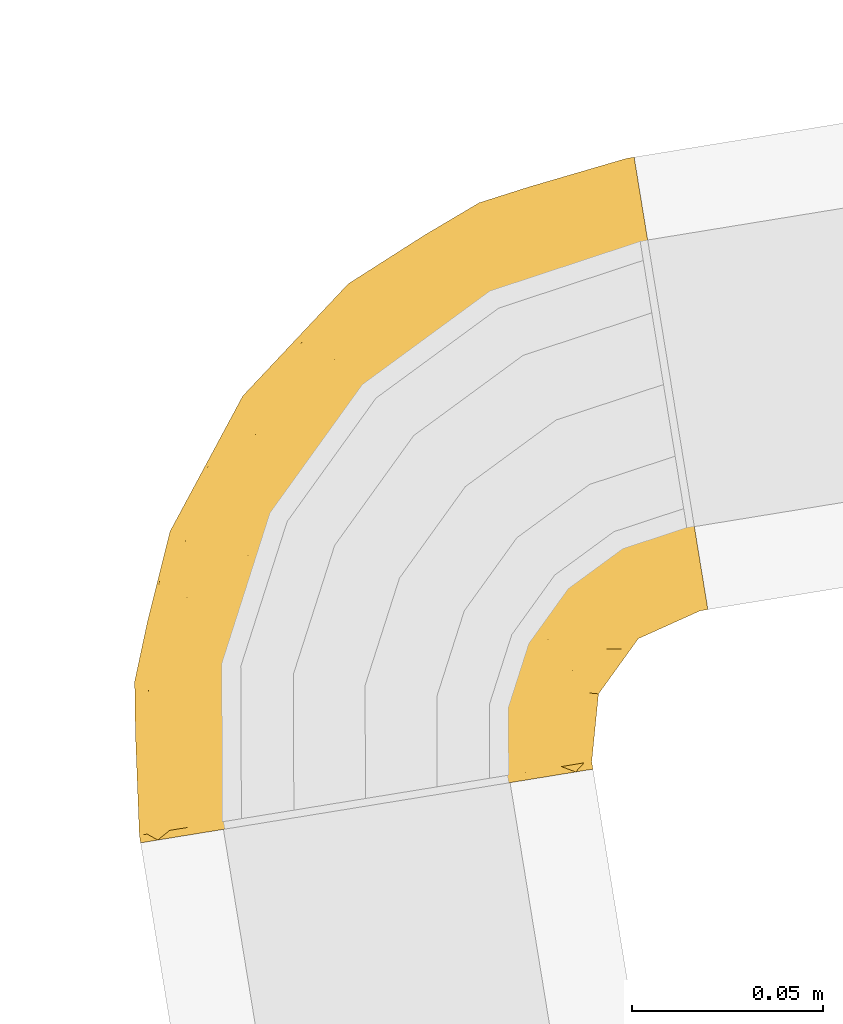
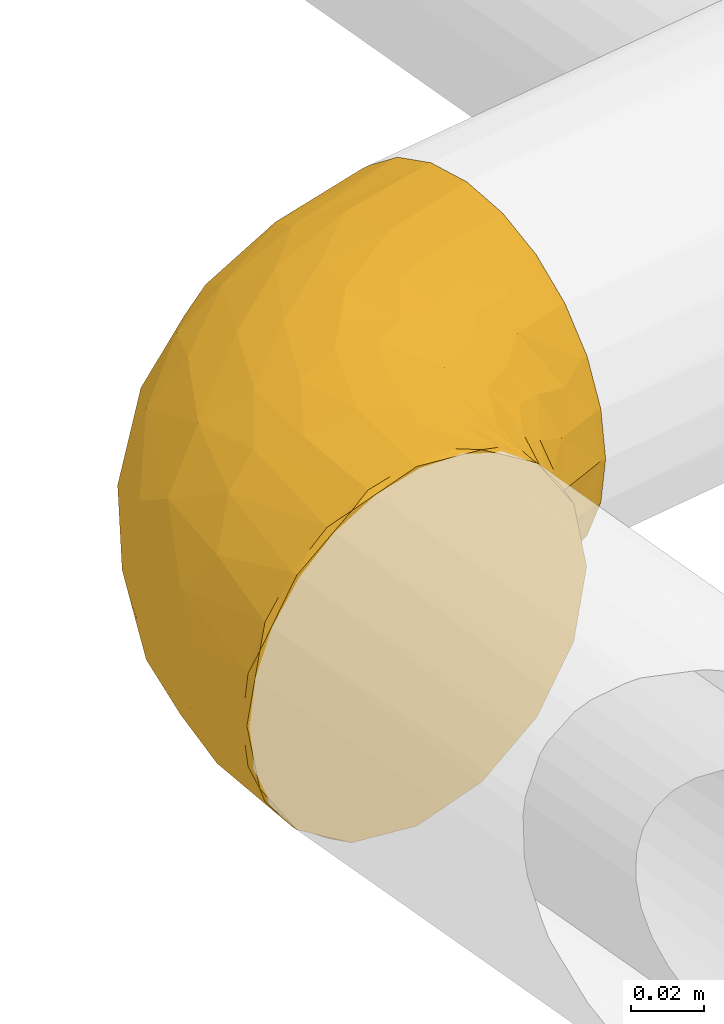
# One storey, part 12 of 46: 1 covering.
"""IFC2X3 building model written with IfcOpenShell, lengths in millimetres."""

from ifc_helpers import new_model, entity, si_unit, converted_unit, derived_unit, direction, frame, origin, origin_with_axes, place, context, subcontext, project, spatial, faceted_brep, material, type_object, element, save


model = new_model("IFC2X3")

# Units and contexts
model_context = context("Model", 3, precision=0.01, world=origin(), true_north=direction((6.12323399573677e-17, 1.0)))
plan_context = context("Plan", 3, precision=1e-05, world=origin_with_axes())
body_context = subcontext(model_context, "Body", "Model", "MODEL_VIEW")
ifc_project = project(units=[converted_unit("PLANEANGLEUNIT", "DEGREE", entity("IfcPositiveLengthMeasure", 0.0174532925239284), si_unit("PLANEANGLEUNIT", "RADIAN"), dimensions=[0, 0, 0, 0, 0, 0, 0]), si_unit("AREAUNIT", "SQUARE_METRE"), si_unit("LENGTHUNIT", "METRE", prefix="MILLI"), si_unit("MASSUNIT", "GRAM", prefix="KILO"), si_unit("POWERUNIT", "WATT"), si_unit("PRESSUREUNIT", "PASCAL", prefix="KILO"), si_unit("FORCEUNIT", "NEWTON", prefix="KILO"), si_unit("ELECTRICVOLTAGEUNIT", "VOLT"), si_unit("ELECTRICCURRENTUNIT", "AMPERE"), si_unit("THERMODYNAMICTEMPERATUREUNIT", "DEGREE_CELSIUS"), si_unit("TIMEUNIT", "SECOND"), si_unit("VOLUMEUNIT", "CUBIC_METRE"), derived_unit("LINEARVELOCITYUNIT", [(si_unit("LENGTHUNIT", "METRE"), 1), (si_unit("TIMEUNIT", "SECOND"), -1)]), derived_unit("VOLUMETRICFLOWRATEUNIT", [(si_unit("VOLUMEUNIT", "CUBIC_METRE"), 1), (si_unit("TIMEUNIT", "SECOND"), -1)]), derived_unit("THERMALTRANSMITTANCEUNIT", [(si_unit("POWERUNIT", "WATT"), 1), (si_unit("THERMODYNAMICTEMPERATUREUNIT", "KELVIN"), -1), (si_unit("AREAUNIT", "SQUARE_METRE"), -1)]), derived_unit("SOUNDPRESSUREUNIT", [(si_unit("PRESSUREUNIT", "PASCAL"), 1)])], contexts=[model_context, plan_context])

# Site, building, storey
site_placement = place(None, frame((-3.09682673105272e-06, 1.93776733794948e-05, 0.0), z_axis=(0.0, 0.0, 1.0), x_axis=(-0.160806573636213, 0.986985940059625, 0.0)))
site = spatial("IfcSite", under=ifc_project, at=site_placement, Name="Default", CompositionType="ELEMENT")
building_placement = place(site_placement, frame((0.0, 0.0, 0.0), z_axis=(0.0, 0.0, 1.0), x_axis=(1.0, -2.77555756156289e-17, 0.0)))
building = spatial("IfcBuilding", under=site, at=building_placement, Name="Bygning (endres i Project Information)", CompositionType="ELEMENT")
storey_placement = place(building_placement, frame((0.0, 0.0, 51360.0000000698), z_axis=(0.0, 0.0, 1.0), x_axis=(1.0, -2.77555756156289e-17, 0.0)))
storey = spatial("IfcBuildingStorey", under=building, at=storey_placement, Name="H01-Nivå D+0,36", CompositionType="ELEMENT", Elevation=51360.0000000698)

# Covering
ifc_material = material(Name="3700.001 Tur")
covering_type = type_object("IfcCoveringType", Name="Pipe Insulation:GLAVA avløpsisol. slange økende 19mm (15,5-25,0)", PredefinedType="INSULATION")
covering_placement = place(storey_placement, frame((999866.867642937, -346843.899155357, 3378.35472776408), z_axis=(0.0, 0.0, 1.0), x_axis=(1.0, -2.77555756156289e-17, 0.0)))
element("IfcCovering", 1, at=covering_placement, inside=storey, type_object=covering_type, material=ifc_material, Name="Pipe Insulation:GLAVA avløpsisol. slange økende 19mm (15,5-25,0)", ObjectType="Pipe Insulation:GLAVA avløpsisol. slange økende 19mm (15,5-25,0)", PredefinedType="INSULATION", context=body_context, shape_type="Brep", body=[
    faceted_brep([(0.0, 129.220951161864, 110.615636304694), (0.0, 138.961762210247, 104.107034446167), (0.0, 145.470364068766, 94.3662233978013), (0.0, 151.978965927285, 84.6254123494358), (0.0, 154.264482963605, 73.1353422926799), (0.0, 156.549999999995, 61.6452722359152), (0.0, 154.264482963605, 50.1552021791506), (0.0, 151.978965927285, 38.6651321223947), (0.0, 145.470364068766, 28.9243210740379), (0.0, 138.961762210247, 19.1835100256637), (0.0, 129.220951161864, 12.6749081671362), (0.0, 119.480140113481, 6.16630630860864), (0.0, 107.990070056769, 3.88078927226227), (0.0, 96.4999999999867, 1.5952722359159), (0.0, 85.0099299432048, 3.88078927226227), (0.0, 73.5198598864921, 6.16630630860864), (0.0, 63.7790488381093, 12.6749081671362), (0.0, 54.0382377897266, 19.1835100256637), (0.0, 47.5296359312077, 28.9243210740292), (0.0, 41.0210340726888, 38.6651321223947), (0.0, 38.7355170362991, 50.1552021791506), (0.0, 36.4499999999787, 61.6452722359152), (0.0, 38.7355170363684, 73.1353422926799), (0.0, 41.0210340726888, 84.6254123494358), (0.0, 47.5296359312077, 94.3662233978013), (0.0, 54.0382377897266, 104.107034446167), (0.0, 63.7790488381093, 110.615636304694), (0.0, 73.5198598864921, 117.124238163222), (0.0, 85.0099299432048, 119.409755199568), (0.0, 96.4999999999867, 121.695272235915), (0.0, 107.990070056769, 119.409755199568), (0.0, 119.480140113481, 117.124238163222), (154.503845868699, 0.0, 46.1031885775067), (155.449472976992, 0.0, 53.2859395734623), (156.550000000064, 0.0, 61.6452722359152), (155.526922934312, 0.0, 69.4163140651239), (154.503845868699, 0.0, 77.1873558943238), (151.504335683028, 0.0, 84.4288140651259), (148.504825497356, 0.0, 91.6702722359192), (143.733293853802, 0.0, 97.8886533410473), (138.961762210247, 0.0, 104.107034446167), (132.743381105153, 0.0, 108.87856608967), (126.52500000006, 0.0, 113.650097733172), (119.283541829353, 0.0, 116.649607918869), (112.042083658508, 0.0, 119.649118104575), (104.859332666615, 0.0, 120.59474521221), (96.500000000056, 0.0, 121.695272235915), (88.7289581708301, 0.0, 120.672195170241), (80.9579163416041, 0.0, 119.649118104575), (73.7164581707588, 0.0, 116.649607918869), (66.475000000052, 0.0, 113.650097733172), (60.2566188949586, 0.0, 108.87856608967), (54.0382377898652, 0.0, 104.107034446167), (49.2667061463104, 0.0, 97.8886533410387), (44.4951745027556, 0.0, 91.6702722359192), (41.4956643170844, 0.0, 84.4288140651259), (38.4961541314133, 0.0, 77.1873558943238), (37.5505270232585, 0.0, 70.0046048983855), (36.450000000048, 0.0, 61.6452722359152), (37.4730770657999, 0.0, 53.8742304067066), (38.4961541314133, 0.0, 46.1031885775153), (41.4956643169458, 0.0, 38.8617304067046), (44.4951745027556, 0.0, 31.6202722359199), (49.2667061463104, 0.0, 25.4018911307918), (54.0382377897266, 0.0, 19.1835100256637), (60.2566188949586, 0.0, 14.4119783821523), (66.475000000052, 0.0, 9.64044673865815), (73.7164581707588, 0.0, 6.64093655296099), (80.9579163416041, 0.0, 3.64142636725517), (88.1406673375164, 0.0, 2.6957992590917), (96.500000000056, 0.0, 1.5952722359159), (104.271041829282, 0.0, 2.61834930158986), (112.042083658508, 0.0, 3.64142636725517), (119.283541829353, 0.0, 6.64093655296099), (126.52500000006, 0.0, 9.64044673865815), (132.743381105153, 0.0, 14.4119783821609), (138.961762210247, 0.0, 19.1835100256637), (143.733293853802, 0.0, 25.4018911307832), (148.504825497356, 0.0, 31.6202722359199), (151.504335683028, 0.0, 38.8617304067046), (154.503845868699, 2.0, 77.1873558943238), (156.550000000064, 2.0, 61.6452722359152), (155.449472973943, 2.0, 70.0046049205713), (148.504825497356, 2.0, 91.6702722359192), (151.504335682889, 2.0, 84.4288140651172), (143.733293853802, 2.0, 97.8886533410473), (138.961762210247, 2.0, 104.107034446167), (126.52500000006, 2.0, 113.650097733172), (132.743381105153, 2.0, 108.87856608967), (112.042083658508, 2.0, 119.649118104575), (119.283541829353, 2.0, 116.649607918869), (104.271041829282, 2.0, 120.672195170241), (96.500000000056, 2.0, 121.695272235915), (88.1406673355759, 2.0, 120.594745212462), (85.8750124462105, 2.0, 120.296466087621), (80.9579163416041, 2.0, 119.649118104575), (66.475000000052, 2.0, 113.650097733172), (73.7164581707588, 2.0, 116.649607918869), (60.2566188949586, 2.0, 108.87856608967), (54.0382377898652, 2.0, 104.107034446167), (44.4951745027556, 2.0, 91.6702722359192), (49.2667061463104, 2.0, 97.8886533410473), (38.4961541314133, 2.0, 77.1873558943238), (41.4956643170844, 2.0, 84.4288140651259), (37.4730770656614, 2.0, 69.4163140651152), (36.450000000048, 2.0, 61.6452722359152), (38.4961541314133, 2.0, 46.1031885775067), (37.5505270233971, 2.0, 53.2859395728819), (44.4951745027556, 2.0, 31.6202722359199), (41.4956643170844, 2.0, 38.8617304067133), (49.2667061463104, 2.0, 25.4018911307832), (54.0382377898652, 2.0, 19.1835100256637), (66.475000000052, 2.0, 9.64044673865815), (60.2566188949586, 2.0, 14.4119783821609), (80.9579163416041, 2.0, 3.64142636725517), (73.7164581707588, 2.0, 6.64093655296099), (85.8750124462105, 2.0, 2.99407838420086), (88.7289581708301, 2.0, 2.61834930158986), (96.500000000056, 2.0, 1.5952722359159), (112.042083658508, 2.0, 3.64142636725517), (104.859332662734, 2.0, 2.69579925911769), (126.52500000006, 2.0, 9.64044673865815), (119.283541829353, 2.0, 6.64093655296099), (132.743381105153, 2.0, 14.4119783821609), (138.961762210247, 2.0, 19.1835100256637), (148.504825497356, 2.0, 31.6202722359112), (143.733293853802, 2.0, 25.4018911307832), (154.503845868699, 2.0, 46.1031885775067), (151.504335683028, 2.0, 38.8617304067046), (155.526922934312, 2.0, 53.8742304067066), (42.0004834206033, 151.283836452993, 61.6452722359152), (28.4061816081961, 153.288940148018, 72.4161841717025), (66.8176923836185, 140.648176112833, 74.9782039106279), (151.283836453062, 42.000483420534, 61.6452722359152), (153.28894006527, 28.4061821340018, 72.4161841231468), (138.43438143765, 65.664162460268, 83.1765166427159), (134.144438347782, 61.5566816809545, 94.222417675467), (148.119588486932, 38.9846814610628, 82.7275564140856), (142.732214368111, 29.8044788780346, 96.4252457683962), (103.18456402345, 62.1059187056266, 117.036665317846), (118.904536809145, 43.2804897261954, 113.961629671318), (116.677739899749, 69.8762938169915, 107.511164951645), (100.860670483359, 109.624365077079, 92.2961559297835), (122.592591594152, 93.8575830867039, 80.2573725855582), (94.5183470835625, 123.241838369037, 77.1652546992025), (94.1873799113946, 53.2047729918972, 120.687826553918), (79.0255659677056, 79.0255650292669, 119.935582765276), (78.4521059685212, 57.5457063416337, 121.695272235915), (130.738697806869, 39.4121865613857, 106.818747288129), (116.8582589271, 85.9725505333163, 98.0183861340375), (111.283353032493, 111.283353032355, 61.6452722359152), (79.2750000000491, 135.844226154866, 61.6452722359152), (135.844226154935, 79.2749999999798, 61.6452722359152), (109.248734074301, 33.1085428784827, 119.188453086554), (62.1059203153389, 103.184562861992, 117.036665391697), (88.1401035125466, 88.1401014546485, 115.120432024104), (85.1634733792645, 44.3739061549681, 121.695272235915), (91.8748407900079, 31.2021059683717, 121.695272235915), (145.293239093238, 57.3185911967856, 72.2819566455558), (39.4121875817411, 130.738696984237, 106.81874773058), (69.8762968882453, 116.677737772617, 107.511165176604), (61.5566846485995, 134.144435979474, 94.2224191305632), (38.9846813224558, 148.119588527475, 82.7275563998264), (2.0, 154.503845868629, 77.1873558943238), (2.0, 151.504335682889, 84.4288140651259), (2.0, 148.504825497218, 91.6702722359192), (29.8044794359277, 142.732213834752, 96.425246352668), (2.0, 143.733293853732, 97.8886533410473), (2.0, 138.961762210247, 104.107034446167), (2.0, 156.549999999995, 61.6452722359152), (2.0, 155.526922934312, 69.4163140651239), (43.2804911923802, 118.904535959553, 113.961629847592), (2.0, 126.524999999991, 113.650097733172), (2.0, 119.283541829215, 116.649607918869), (2.0, 112.042083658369, 119.649118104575), (2.0, 132.743381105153, 108.87856608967), (57.545706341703, 78.4521059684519, 121.695272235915), (67.9989061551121, 67.9989061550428, 121.695272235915), (53.2047737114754, 94.1873794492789, 120.687826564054), (33.1085435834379, 109.248733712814, 119.188453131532), (31.2021059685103, 91.8748407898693, 121.695272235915), (2.0, 96.4999999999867, 121.695272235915), (14.796615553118, 94.4732152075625, 121.695272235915), (44.3739061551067, 85.1634733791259, 121.695272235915), (76.0964222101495, 132.27747936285, 84.8749327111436), (2.0, 104.271041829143, 120.672195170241), (97.6322626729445, 97.632258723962, 105.757550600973), (94.4732153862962, 14.7966144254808, 121.695272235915), (26.3881555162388, 37.6410747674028, 92.8369498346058), (19.8213005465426, 34.0749834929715, 77.9055273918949), (30.495068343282, 28.0667583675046, 83.6303098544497), (79.6755573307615, 16.0282072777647, 119.642205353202), (77.7956794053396, 29.5164396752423, 120.072900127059), (41.3921957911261, 10.6116860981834, 87.5451559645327), (51.2599985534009, 19.0628082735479, 104.200031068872), (39.3569033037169, 21.7229416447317, 91.2304823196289), (66.4255659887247, 27.3599081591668, 116.12269221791), (61.7611370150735, 39.666857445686, 116.752099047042), (57.3979050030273, 28.2283372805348, 111.67835539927), (73.6921423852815, 42.1136087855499, 120.41189913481), (59.8559552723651, 53.275038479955, 119.181509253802), (11.1054589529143, 52.727726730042, 103.601291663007), (21.0489355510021, 51.2360169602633, 104.848123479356), (18.495195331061, 59.4763453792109, 110.652106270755), (2.0, 88.7289581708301, 120.672195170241), (2.0, 85.8750125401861, 120.2964661), (2.0, 80.9579163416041, 119.649118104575), (69.7763679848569, 16.1927958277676, 116.127021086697), (60.2362581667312, 14.693483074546, 110.514916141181), (35.2954551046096, 16.4668027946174, 76.4459559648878), (35.1684660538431, 31.5509659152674, 94.7858946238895), (35.474407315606, 42.5961267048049, 104.678316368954), (13.4287309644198, 41.1395158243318, 88.4690949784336), (2.0, 44.4951745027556, 91.6702722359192), (2.0, 41.4956643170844, 84.4288140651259), (2.0, 38.496154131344, 77.1873558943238), (54.7534216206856, 65.3961824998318, 120.478795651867), (29.8078963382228, 66.6759720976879, 116.647334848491), (44.0771599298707, 71.9580007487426, 120.30145030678), (27.0781928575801, 78.5096110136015, 120.044050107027), (29.7714545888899, 57.492677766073, 112.175020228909), (16.2064688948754, 82.4821351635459, 120.320962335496), (2.0, 66.4749999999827, 113.650097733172), (16.1340663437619, 67.9157141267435, 115.239613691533), (2.0, 54.0382377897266, 104.107034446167), (48.9737177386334, 37.4968626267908, 109.988197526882), (43.94479507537, 28.5809695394, 101.585160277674), (10.6124999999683, 34.1422875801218, 61.6452722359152), (11.3511933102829, 37.5973450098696, 78.2976487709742), (40.6154890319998, 53.6128492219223, 113.641213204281), (39.3574666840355, 62.9326956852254, 117.104758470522), (2.0, 36.4499999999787, 61.6452722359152), (25.5297875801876, 25.5297875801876, 61.6452722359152), (19.2250000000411, 31.8345751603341, 61.6452722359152), (29.823229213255, 23.9458716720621, 72.4858684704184), (31.8345751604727, 19.2249999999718, 61.6452722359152), (2.0, 60.25661889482, 108.87856608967), (2.0, 49.2667061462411, 97.8886533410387), (2.0, 73.7164581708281, 116.649607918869), (2.0, 37.4730770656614, 69.4163140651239), (51.2599985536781, 19.0628082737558, 19.0905134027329), (41.3921957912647, 10.6116860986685, 35.7453885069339), (35.2954551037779, 16.4668027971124, 46.8445885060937), (79.6755573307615, 16.028207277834, 3.64833911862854), (94.4732153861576, 14.7966144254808, 1.5952722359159), (57.545706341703, 78.4521059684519, 1.5952722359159), (54.7534299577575, 65.3961907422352, 2.81174643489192), (44.0771578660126, 71.9580001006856, 2.98909452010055), (19.8213005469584, 34.0749834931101, 45.3850170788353), (26.3881555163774, 37.6410747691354, 30.4535946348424), (30.495068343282, 28.0667583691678, 39.6602346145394), (60.6680970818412, 14.4208560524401, 12.5170794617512), (70.3948101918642, 16.8876246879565, 6.8221522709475), (66.4255659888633, 27.3599081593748, 7.16785225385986), (73.6921423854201, 42.1136087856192, 2.87864533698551), (78.4327232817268, 30.0434207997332, 3.03824146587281), (91.8748407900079, 31.2021059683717, 1.5952722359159), (43.9447950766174, 28.5809695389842, 21.7053841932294), (35.4744037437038, 42.596120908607, 18.6122346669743), (48.9737177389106, 37.4968626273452, 13.3023469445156), (35.1684660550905, 31.5509659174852, 28.5046498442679), (39.3569033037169, 21.7229416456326, 32.0600621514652), (26.140148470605, 28.092672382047, 50.2206672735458), (67.9989061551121, 67.9989061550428, 1.5952722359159), (59.8559490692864, 53.2750496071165, 4.10903439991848), (11.3511933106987, 37.5973450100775, 44.9928956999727), (14.7966155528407, 94.4732152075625, 1.59527223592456), (2.0, 80.9579163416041, 3.64142636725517), (2.0, 85.8750125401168, 2.99407837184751), (2.0, 88.7289581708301, 2.61834930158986), (2.0, 96.4999999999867, 1.5952722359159), (40.6154761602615, 53.6128377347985, 9.64934103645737), (18.4951987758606, 59.4763438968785, 12.638438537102), (2.0, 54.0382377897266, 19.1835100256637), (16.134063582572, 67.9157049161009, 8.05093562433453), (2.0, 60.25661889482, 14.4119783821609), (2.0, 66.4749999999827, 9.64044673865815), (27.0781868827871, 78.5096049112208, 3.2464961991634), (29.8078959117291, 66.6759627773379, 6.64321344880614), (21.0489258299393, 51.2360176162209, 18.4424237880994), (29.7714523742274, 57.4926701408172, 11.1155292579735), (61.7611302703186, 39.66686114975, 6.53844704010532), (31.2021059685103, 91.8748407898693, 1.5952722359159), (16.2064688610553, 82.482134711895, 2.96958223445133), (44.3739061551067, 85.1634733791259, 1.5952722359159), (11.1054582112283, 52.7277319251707, 19.6892477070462), (13.428730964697, 41.1395158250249, 34.8214494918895), (2.0, 38.496154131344, 46.1031885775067), (2.0, 41.4956643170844, 38.8617304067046), (2.0, 44.4951745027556, 31.6202722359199), (57.3979048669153, 28.2283378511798, 11.6121889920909), (78.4521059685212, 57.5457063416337, 1.5952722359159), (2.0, 37.4730770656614, 53.8742304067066), (39.3574747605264, 62.9326857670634, 6.18578775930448), (2.0, 73.7164581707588, 6.64093655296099), (2.0, 49.2667061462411, 25.4018911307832), (85.1634733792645, 44.3739061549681, 1.5952722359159), (94.1873799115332, 53.2047729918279, 2.60271791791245), (61.5566846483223, 134.144435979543, 29.0681253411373), (85.9725557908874, 116.858254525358, 25.2721577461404), (69.8762968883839, 116.67773777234, 15.7793792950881), (38.9846813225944, 148.119588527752, 40.5629880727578), (2.0, 148.504825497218, 31.6202722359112), (2.0, 151.504335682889, 38.8617304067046), (2.0, 154.503845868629, 46.1031885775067), (109.624370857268, 100.86066465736, 30.9943890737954), (93.8575895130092, 122.59258682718, 43.0331721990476), (123.241842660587, 94.5183416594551, 46.1252902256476), (53.2047737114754, 94.1873794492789, 2.60271790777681), (79.0255659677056, 79.0255650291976, 3.35496170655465), (109.248734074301, 33.1085428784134, 4.10209138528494), (153.28894006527, 28.4061821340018, 50.874360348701), (148.119588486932, 38.9846814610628, 40.5629880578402), (142.73221436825, 29.8044788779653, 26.8652987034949), (130.738697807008, 39.4121865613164, 16.4717971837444), (134.144438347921, 61.5566816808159, 29.0681267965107), (140.648176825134, 66.8176902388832, 48.3123394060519), (118.904536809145, 43.2804897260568, 9.32891480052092), (116.677739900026, 69.8762938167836, 15.7793795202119), (2.0, 126.524999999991, 9.64044673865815), (39.4121875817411, 130.738696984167, 16.4717967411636), (43.2804911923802, 118.904535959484, 9.32891462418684), (33.1085435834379, 109.248733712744, 4.10209134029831), (62.1059203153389, 103.184562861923, 6.25387908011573), (2.0, 104.271041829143, 2.61834930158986), (2.0, 112.042083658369, 3.64142636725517), (103.18456402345, 62.105918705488, 6.25387915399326), (88.1401035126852, 88.1401014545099, 8.17011244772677), (28.4061816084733, 153.288940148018, 50.8743603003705), (2.0, 138.961762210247, 19.1835100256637), (29.8044794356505, 142.73221383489, 26.8652981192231), (57.3185899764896, 145.29323981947, 51.0085891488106), (2.0, 143.733293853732, 25.4018911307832), (2.0, 132.743381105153, 14.4119783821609), (65.6641633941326, 138.434380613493, 40.1140269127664), (132.277483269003, 76.0964168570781, 38.4156135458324), (97.6322626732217, 97.6322587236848, 17.5329938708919), (2.0, 119.283541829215, 6.64093655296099), (2.0, 155.526922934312, 53.8742304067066)], [[[0, 1, 2, 3, 4, 5, 6, 7, 8, 9, 10, 11, 12, 13, 14, 15, 16, 17, 18, 19, 20, 21, 22, 23, 24, 25, 26, 27, 28, 29, 30, 31]], [[32, 33, 34, 35, 36, 37, 38, 39, 40, 41, 42, 43, 44, 45, 46, 47, 48, 49, 50, 51, 52, 53, 54, 55, 56, 57, 58, 59, 60, 61, 62, 63, 64, 65, 66, 67, 68, 69, 70, 71, 72, 73, 74, 75, 76, 77, 78, 79]], [[80, 36, 35, 34, 81, 82]], [[83, 38, 37, 36, 80, 84]], [[39, 38, 83, 85, 86, 40]], [[87, 42, 41, 40, 86, 88]], [[89, 44, 43, 42, 87, 90]], [[45, 44, 89, 91, 92, 46]], [[48, 47, 46, 92, 93, 94, 95]], [[96, 50, 49, 48, 95, 97]], [[51, 50, 96, 98, 99, 52]], [[100, 54, 53, 52, 99, 101]], [[102, 56, 55, 54, 100, 103]], [[57, 56, 102, 104, 105, 58]], [[106, 60, 59, 58, 105, 107]], [[108, 62, 61, 60, 106, 109]], [[63, 62, 108, 110, 111, 64]], [[112, 66, 65, 64, 111, 113]], [[114, 68, 67, 66, 112, 115]], [[69, 68, 114, 116, 117, 118, 70]], [[119, 72, 71, 70, 118, 120]], [[121, 74, 73, 72, 119, 122]], [[75, 74, 121, 123, 124, 76]], [[125, 78, 77, 76, 124, 126]], [[127, 32, 79, 78, 125, 128]], [[33, 32, 127, 129, 81, 34]], [[130, 131, 132]], [[81, 133, 134]], [[135, 136, 137]], [[137, 136, 138]], [[137, 83, 84, 80]], [[139, 140, 141]], [[142, 143, 144]], [[145, 146, 147]], [[148, 86, 138]], [[138, 86, 85, 83]], [[143, 142, 149]], [[150, 151, 144]], [[143, 152, 150]], [[153, 92, 91, 89]], [[154, 146, 155]], [[87, 148, 140]], [[145, 147, 156, 157]], [[80, 134, 137]], [[158, 135, 137]], [[155, 146, 139]], [[148, 87, 88, 86]], [[159, 160, 161]], [[162, 163, 164, 165]], [[166, 165, 167, 168]], [[166, 162, 165]], [[131, 169, 170, 163]], [[159, 171, 160]], [[171, 172, 173, 174]], [[153, 139, 145]], [[159, 168, 175, 172]], [[144, 143, 150]], [[146, 176, 177, 147]], [[178, 179, 180]], [[179, 181, 182, 180]], [[178, 180, 183, 176]], [[178, 146, 154]], [[136, 149, 141]], [[131, 163, 162]], [[166, 159, 161]], [[184, 144, 132]], [[153, 140, 139]], [[179, 171, 174]], [[132, 144, 151]], [[134, 158, 137]], [[161, 160, 142]], [[146, 178, 176]], [[179, 178, 154]], [[179, 154, 171]], [[179, 174, 185, 181]], [[154, 155, 160]], [[172, 171, 159]], [[154, 160, 171]], [[160, 186, 142]], [[153, 157, 187, 92]], [[146, 145, 139]], [[153, 145, 157]], [[140, 89, 90, 87]], [[140, 153, 89]], [[141, 140, 148]], [[136, 141, 148]], [[141, 186, 155]], [[142, 144, 184]], [[186, 141, 149]], [[137, 138, 83]], [[148, 138, 136]], [[159, 166, 168]], [[162, 166, 161]], [[141, 155, 139]], [[160, 155, 186]], [[130, 132, 151]], [[184, 162, 161]], [[162, 184, 132]], [[142, 184, 161]], [[134, 80, 82, 81]], [[158, 134, 133]], [[133, 152, 158]], [[143, 158, 152]], [[158, 143, 135]], [[143, 136, 135]], [[132, 131, 162]], [[169, 131, 130]], [[143, 149, 136]], [[186, 149, 142]], [[188, 189, 190]], [[187, 157, 191]], [[157, 156, 192]], [[95, 187, 191]], [[193, 194, 195]], [[196, 197, 198]], [[199, 200, 197]], [[201, 202, 203]], [[182, 181, 204, 205, 206]], [[207, 208, 96]], [[209, 105, 104, 102]], [[188, 190, 210]], [[188, 210, 211]], [[187, 95, 94, 93, 92]], [[193, 102, 103, 100]], [[212, 213, 214, 215]], [[200, 177, 216]], [[202, 201, 212]], [[217, 218, 219]], [[183, 219, 218]], [[217, 203, 220]], [[221, 222, 223]], [[191, 96, 97, 95]], [[195, 210, 190]], [[224, 201, 203]], [[225, 211, 226]], [[227, 189, 228]], [[202, 188, 211]], [[195, 190, 209]], [[221, 182, 206]], [[223, 203, 217]], [[189, 188, 212]], [[200, 229, 225]], [[194, 100, 101, 99]], [[216, 218, 230]], [[208, 99, 98, 96]], [[199, 197, 196]], [[200, 147, 177]], [[228, 231, 227]], [[202, 212, 188]], [[228, 212, 215]], [[232, 189, 233]], [[209, 234, 235]], [[234, 209, 190]], [[105, 209, 235]], [[193, 209, 102]], [[232, 234, 189]], [[226, 210, 195]], [[211, 225, 229]], [[211, 210, 226]], [[211, 229, 220]], [[195, 194, 226]], [[198, 226, 194]], [[218, 216, 176]], [[216, 177, 176]], [[229, 200, 216]], [[180, 219, 183]], [[217, 220, 230]], [[218, 176, 183]], [[221, 219, 180]], [[223, 217, 219]], [[221, 223, 219]], [[223, 222, 236, 224]], [[224, 203, 223]], [[220, 203, 202]], [[211, 220, 202]], [[217, 230, 218]], [[220, 229, 230]], [[216, 230, 229]], [[201, 224, 237, 213]], [[212, 201, 213]], [[182, 221, 180]], [[221, 206, 238, 222]], [[189, 227, 233]], [[199, 196, 192]], [[191, 192, 207]], [[200, 199, 147]], [[147, 199, 156]], [[196, 207, 192]], [[200, 225, 197]], [[225, 226, 198]], [[157, 192, 191]], [[156, 199, 192]], [[207, 196, 208]], [[191, 207, 96]], [[198, 208, 196]], [[194, 99, 208]], [[225, 198, 197]], [[208, 198, 194]], [[194, 193, 100]], [[209, 193, 195]], [[189, 234, 190]], [[235, 234, 232]], [[228, 215, 239, 231]], [[189, 212, 228]], [[240, 111, 110, 108]], [[241, 108, 109, 106]], [[105, 235, 242]], [[243, 244, 114]], [[245, 246, 247]], [[248, 249, 250]], [[248, 233, 227]], [[251, 252, 112]], [[116, 114, 244, 118, 117]], [[253, 254, 255]], [[244, 243, 256]], [[253, 252, 251]], [[257, 258, 259]], [[243, 114, 115, 112]], [[258, 260, 249]], [[261, 250, 260]], [[262, 242, 235]], [[246, 263, 264]], [[231, 265, 227]], [[240, 108, 241]], [[266, 267, 268, 269, 270]], [[264, 259, 271]], [[272, 273, 274]], [[260, 257, 261]], [[274, 273, 275, 276]], [[277, 247, 278]], [[279, 280, 258]], [[254, 281, 264]], [[266, 282, 283]], [[283, 282, 277]], [[282, 284, 277]], [[272, 285, 273]], [[286, 279, 249]], [[286, 287, 288, 289]], [[259, 281, 290]], [[272, 280, 279]], [[263, 246, 245]], [[264, 291, 254]], [[286, 289, 285]], [[248, 286, 249]], [[260, 250, 249]], [[265, 231, 292, 287]], [[242, 250, 261]], [[262, 248, 250]], [[241, 242, 261]], [[242, 106, 107, 105]], [[262, 235, 232, 233]], [[248, 262, 233]], [[260, 258, 257]], [[279, 258, 249]], [[259, 258, 271]], [[290, 257, 259]], [[240, 261, 257]], [[264, 271, 246]], [[263, 291, 264]], [[280, 278, 293]], [[293, 246, 271]], [[278, 274, 277]], [[277, 284, 247]], [[284, 245, 247]], [[283, 276, 294, 267]], [[274, 278, 272]], [[283, 274, 276]], [[280, 272, 278]], [[272, 279, 285]], [[293, 278, 247]], [[258, 280, 271]], [[246, 293, 247]], [[271, 280, 293]], [[286, 285, 279]], [[285, 289, 295, 273]], [[283, 277, 274]], [[266, 283, 267]], [[265, 287, 286]], [[253, 255, 252]], [[254, 291, 296]], [[255, 254, 296]], [[243, 255, 256]], [[254, 253, 281]], [[256, 255, 296]], [[255, 243, 252]], [[290, 281, 253]], [[259, 264, 281]], [[243, 112, 252]], [[251, 112, 113, 111]], [[111, 240, 251]], [[290, 251, 240]], [[251, 290, 253]], [[290, 240, 257]], [[242, 241, 106]], [[240, 241, 261]], [[242, 262, 250]], [[286, 248, 265]], [[227, 265, 248]], [[297, 256, 296, 291]], [[298, 299, 300]], [[301, 302, 303, 304]], [[305, 306, 307]], [[308, 309, 245]], [[297, 310, 256]], [[311, 127, 312]], [[313, 314, 315]], [[311, 81, 129, 127]], [[316, 307, 152]], [[314, 317, 318]], [[313, 312, 125]], [[312, 127, 128, 125]], [[313, 125, 126, 124]], [[319, 320, 321]], [[314, 124, 123, 121]], [[317, 121, 122, 119]], [[306, 151, 150]], [[309, 291, 263, 245]], [[322, 321, 323]], [[314, 318, 315]], [[322, 323, 308]], [[322, 270, 324, 325]], [[326, 309, 327]], [[119, 310, 317]], [[304, 328, 301]], [[306, 305, 299]], [[320, 329, 330]], [[328, 331, 301]], [[330, 329, 332, 302]], [[320, 319, 333, 329]], [[331, 334, 301]], [[298, 301, 334]], [[307, 306, 150]], [[169, 130, 328]], [[297, 309, 326]], [[327, 309, 323]], [[330, 301, 298]], [[300, 323, 321]], [[310, 118, 244, 256]], [[150, 152, 307]], [[308, 245, 284, 282]], [[335, 307, 316]], [[133, 311, 316]], [[315, 318, 305]], [[309, 297, 291]], [[310, 297, 326]], [[310, 326, 317]], [[310, 119, 120, 118]], [[326, 327, 318]], [[121, 317, 314]], [[326, 318, 317]], [[318, 336, 305]], [[322, 282, 266, 270]], [[309, 308, 323]], [[322, 308, 282]], [[321, 325, 337, 319]], [[321, 322, 325]], [[300, 321, 320]], [[298, 300, 320]], [[300, 336, 327]], [[305, 307, 335]], [[336, 300, 299]], [[301, 330, 302]], [[320, 330, 298]], [[314, 313, 124]], [[312, 313, 315]], [[300, 327, 323]], [[318, 327, 336]], [[133, 316, 152]], [[335, 312, 315]], [[312, 335, 316]], [[305, 335, 315]], [[328, 304, 338, 169]], [[331, 328, 130]], [[130, 151, 331]], [[306, 331, 151]], [[331, 306, 334]], [[306, 298, 334]], [[316, 311, 312]], [[81, 311, 133]], [[306, 299, 298]], [[336, 299, 305]], [[170, 169, 5]], [[185, 174, 30]], [[185, 29, 181]], [[3, 2, 165]], [[3, 165, 164, 163]], [[3, 163, 4]], [[1, 167, 2]], [[5, 4, 170]], [[167, 1, 168]], [[4, 163, 170]], [[29, 185, 30]], [[31, 174, 173, 172]], [[175, 0, 172]], [[175, 1, 0]], [[31, 172, 0]], [[1, 175, 168]], [[167, 165, 2]], [[31, 30, 174]], [[204, 181, 29]], [[239, 215, 22]], [[239, 21, 231]], [[27, 26, 222]], [[27, 222, 238, 206]], [[27, 206, 28]], [[25, 236, 26]], [[29, 28, 204]], [[236, 25, 224]], [[28, 206, 205, 204]], [[21, 239, 22]], [[23, 215, 214, 213]], [[237, 24, 213]], [[237, 25, 24]], [[23, 213, 24]], [[25, 237, 224]], [[236, 222, 26]], [[23, 22, 215]], [[292, 231, 21]], [[14, 269, 268, 267]], [[269, 13, 270]], [[19, 18, 289]], [[19, 289, 288, 287]], [[19, 287, 20]], [[17, 295, 18]], [[21, 20, 292]], [[295, 17, 273]], [[20, 287, 292]], [[13, 269, 14]], [[15, 267, 294, 276]], [[275, 16, 276]], [[275, 17, 16]], [[15, 276, 16]], [[17, 275, 273]], [[295, 289, 18]], [[15, 14, 267]], [[324, 270, 13]], [[338, 304, 6]], [[338, 5, 169]], [[11, 10, 319]], [[11, 319, 337, 325]], [[11, 325, 12]], [[9, 333, 10]], [[13, 12, 324]], [[333, 9, 329]], [[12, 325, 324]], [[5, 338, 6]], [[7, 304, 303, 302]], [[332, 8, 302]], [[332, 9, 8]], [[7, 302, 8]], [[9, 332, 329]], [[333, 319, 10]], [[7, 6, 304]]]),
])

save(model, "model.ifc")
